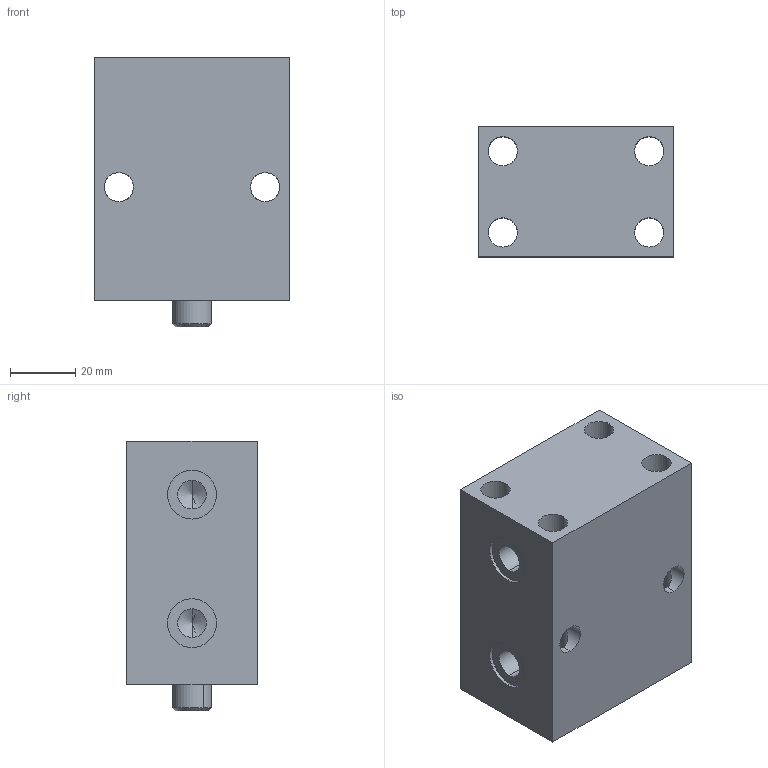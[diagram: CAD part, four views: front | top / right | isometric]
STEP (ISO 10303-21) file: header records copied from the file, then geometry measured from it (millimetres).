
FILE_DESCRIPTION (( 'STEP AP203' ), '1' );
FILE_NAME ('Block cylinder B01C-025F.STEP', '2022-07-09T18:24:57', ( '' ), ( '' ), 'SwSTEP 2.0', 'SolidWorks 2017', '' );
FILE_SCHEMA (( 'CONFIG_CONTROL_DESIGN' ));
Length unit declared in the file: millimetre
Products named in the file (3): Body_025F; Piston_025F; Block cylinder B01C-025F
Assembly tree (2 placements, depth 2):
  Block cylinder B01C-025F
    Body_025F
    Piston_025F
Bounding box: 60 x 40 x 83 mm (x, y, z)
Volume: 155241.9 mm3; surface area: 33317.9 mm2
Topology: 2 solids, 2 shells, 342 faces, 934 edges, 609 vertices
Faces by surface type: bspline 155, plane 135, cylinder 44, cone 8
Entity records: 17365 total; most frequent: CARTESIAN_POINT 9527, ORIENTED_EDGE 1856, DIRECTION 1028, EDGE_CURVE 928, VERTEX_POINT 609, VECTOR 528, LINE 528, EDGE_LOOP 381
